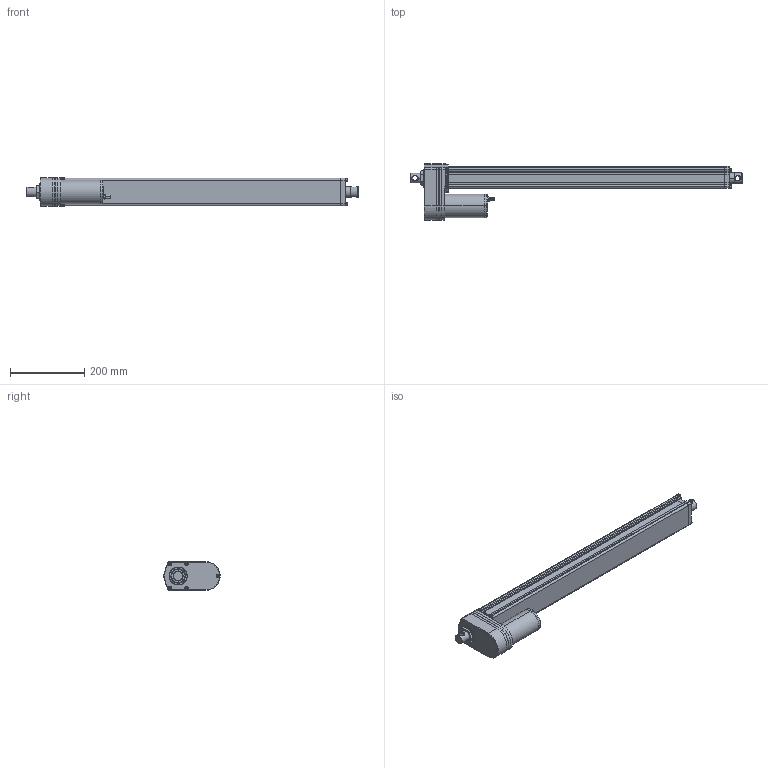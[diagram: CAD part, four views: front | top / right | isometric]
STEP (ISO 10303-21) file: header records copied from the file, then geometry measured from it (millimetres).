
FILE_DESCRIPTION((''),' ');
FILE_NAME('dszy13-600_std.stp',' ',('MSW'),('MSW'),' ','ACIS 14.0',' ');
FILE_SCHEMA(('automotive_design'));
Length unit declared in the file: inch
Products named in the file (2): dszy13-600_std
Bounding box: 894 x 151.7 x 77.2 mm (x, y, z)
Volume: 3734939.9 mm3; surface area: 463994 mm2
Topology: 2 solids, 2 shells, 1648 faces, 4015 edges, 2386 vertices
Faces by surface type: plane 1316, cylinder 218, cone 60, torus 30, bspline 24
Entity records: 60917 total; most frequent: CARTESIAN_POINT 8562, DIRECTION 8537, ORIENTED_EDGE 7982, EDGE_CURVE 3991, AXIS2_PLACEMENT_3D 2962, LINE 2613, VECTOR 2613, VERTEX_POINT 2386
